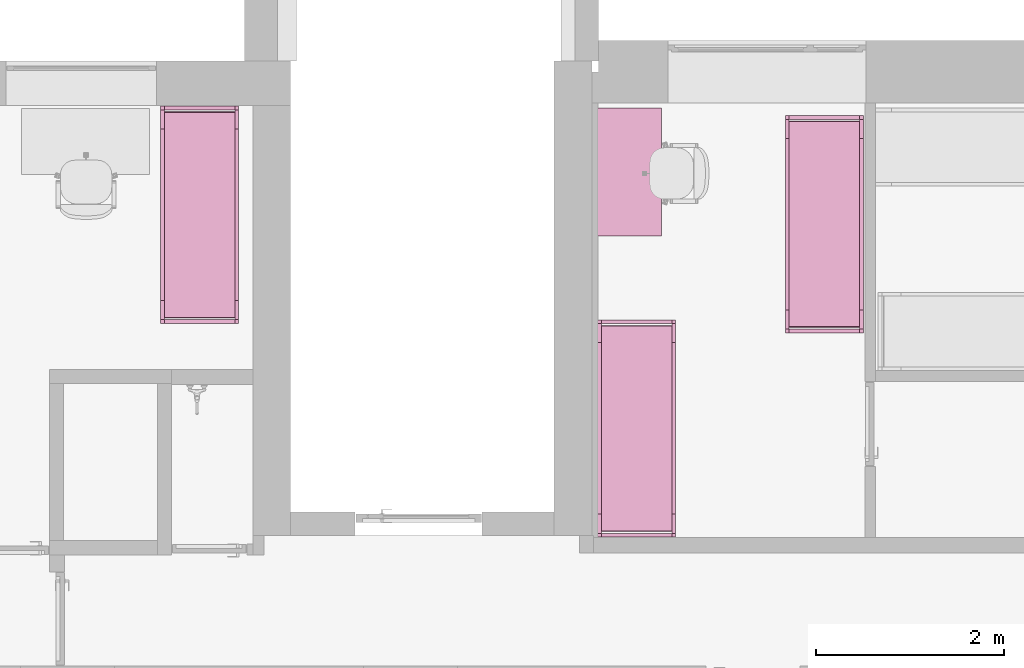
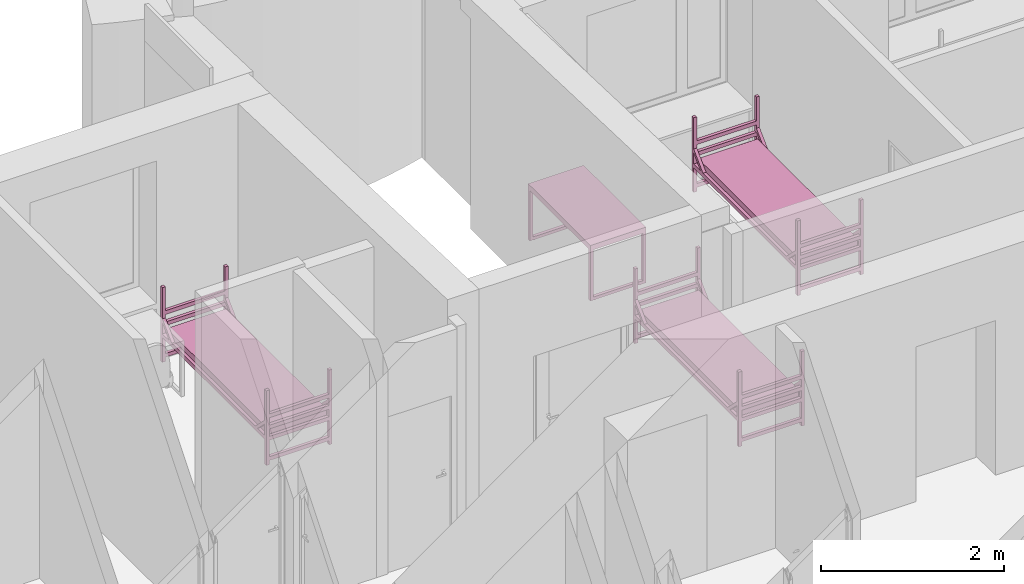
# One storey, part 26 of 46: 4 furnishings.
"""IFC2X3 building model written with IfcOpenShell, lengths in millimetres."""

from ifc_helpers import new_model, entity, si_unit, converted_unit, derived_unit, direction, frame, frame_2d, origin, place, context, subcontext, project, spatial, polyline, circle_curve, parameter, trimmed, segment, composite_curve, rectangle, outline, extrude, faceted_brep, source, transform, mapped, material, material_list, type_object, type_shapes, element, save


model = new_model("IFC2X3")

# Units and contexts
model_context = context("Model", 3, precision=0.01, world=origin(), true_north=direction((6.12303176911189e-17, 1.0)))
body_context = subcontext(model_context, "Body", "Model", "MODEL_VIEW")
ifc_project = project(units=[si_unit("LENGTHUNIT", "METRE", prefix="MILLI"), si_unit("AREAUNIT", "SQUARE_METRE"), si_unit("VOLUMEUNIT", "CUBIC_METRE"), converted_unit("PLANEANGLEUNIT", "DEGREE", entity("IfcRatioMeasure", 0.0174532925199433), si_unit("PLANEANGLEUNIT", "RADIAN"), dimensions=[0, 0, 0, 0, 0, 0, 0]), si_unit("MASSUNIT", "GRAM", prefix="KILO"), derived_unit("MASSDENSITYUNIT", [(si_unit("MASSUNIT", "GRAM", prefix="KILO"), 1), (si_unit("LENGTHUNIT", "METRE"), -3)]), si_unit("TIMEUNIT", "SECOND"), si_unit("FREQUENCYUNIT", "HERTZ"), si_unit("THERMODYNAMICTEMPERATUREUNIT", "DEGREE_CELSIUS"), derived_unit("THERMALTRANSMITTANCEUNIT", [(si_unit("MASSUNIT", "GRAM", prefix="KILO"), 1), (si_unit("THERMODYNAMICTEMPERATUREUNIT", "KELVIN"), -1), (si_unit("TIMEUNIT", "SECOND"), -3)]), derived_unit("VOLUMETRICFLOWRATEUNIT", [(si_unit("LENGTHUNIT", "METRE"), 3), (si_unit("TIMEUNIT", "SECOND"), -1)]), si_unit("ELECTRICCURRENTUNIT", "AMPERE"), si_unit("ELECTRICVOLTAGEUNIT", "VOLT"), si_unit("POWERUNIT", "WATT"), si_unit("FORCEUNIT", "NEWTON", prefix="KILO"), si_unit("ILLUMINANCEUNIT", "LUX"), si_unit("LUMINOUSFLUXUNIT", "LUMEN"), si_unit("LUMINOUSINTENSITYUNIT", "CANDELA"), derived_unit("USERDEFINED", [(si_unit("MASSUNIT", "GRAM", prefix="KILO"), -1), (si_unit("LENGTHUNIT", "METRE"), -2), (si_unit("TIMEUNIT", "SECOND"), 3), (si_unit("LUMINOUSFLUXUNIT", "LUMEN"), 1)]), derived_unit("LINEARVELOCITYUNIT", [(si_unit("LENGTHUNIT", "METRE"), 1), (si_unit("TIMEUNIT", "SECOND"), -1)]), si_unit("PRESSUREUNIT", "PASCAL"), derived_unit("USERDEFINED", [(si_unit("LENGTHUNIT", "METRE"), -2), (si_unit("MASSUNIT", "GRAM", prefix="KILO"), 1), (si_unit("TIMEUNIT", "SECOND"), -2)]), derived_unit("LINEARFORCEUNIT", [(si_unit("MASSUNIT", "GRAM", prefix="KILO"), 1), (si_unit("LENGTHUNIT", "METRE"), 1), (si_unit("TIMEUNIT", "SECOND"), -2), (si_unit("LENGTHUNIT", "METRE"), -1)]), derived_unit("PLANARFORCEUNIT", [(si_unit("MASSUNIT", "GRAM", prefix="KILO"), 1), (si_unit("LENGTHUNIT", "METRE"), 1), (si_unit("TIMEUNIT", "SECOND"), -2), (si_unit("LENGTHUNIT", "METRE"), -2)])], contexts=[model_context])

# Site, building, storey, space
site_placement = place(None, origin())
site = spatial("IfcSite", under=ifc_project, at=site_placement, Name="Default", CompositionType="ELEMENT")
building_placement = place(site_placement, origin())
building = spatial("IfcBuilding", under=site, at=building_placement, Name="SMA ARH", CompositionType="ELEMENT")
storey_placement = place(building_placement, frame((0.0, 0.0, 9910.0)))
storey = spatial("IfcBuildingStorey", under=building, at=storey_placement, Name="4 Korrus", CompositionType="ELEMENT", Elevation=9909.9999999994)
space_1_placement = place(storey_placement, origin())
space_1 = spatial("IfcSpace", under=storey, at=space_1_placement, Name="4-22", CompositionType="ELEMENT", InteriorOrExteriorSpace="INTERNAL")

# Furnishings
ifc_material_1 = material(Name="Madrats")
furniture_type_1 = type_object("IfcFurnitureType", Name="Kasarmu voodi ühekordne 2308x830:Kasarmu voodi ühekordne 2308x830", material=ifc_material_1)
shared_shape_1 = source(origin(), body_context, "Body", "SweptSolid", [
    extrude(rectangle(XDim=39.9999999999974, YDim=750.000000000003, at=frame_2d((-1.35003119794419e-13, -2.8421709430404e-14), x_axis=(1.0, 0.0))), frame((1.68638457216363, -1226.7969571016, 55.0), z_axis=(0.0, 0.0, 1.0), x_axis=(0.0, -1.0, 0.0)), (0.0, 0.0, 1.0), 49.9999999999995),
    extrude(rectangle(XDim=39.9999999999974, YDim=750.000000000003, at=frame_2d((-1.35003119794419e-13, -2.8421709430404e-14), x_axis=(1.0, 0.0))), frame((1.68638457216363, -1226.7969571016, 325.0), z_axis=(0.0, 0.0, 1.0), x_axis=(0.0, -1.0, 0.0)), (0.0, 0.0, 1.0), 49.9999999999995),
    extrude(rectangle(XDim=39.9999999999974, YDim=750.000000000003, at=frame_2d((-1.35003119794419e-13, -2.8421709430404e-14), x_axis=(1.0, 0.0))), frame((1.68638457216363, -1226.7969571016, 475.0), z_axis=(0.0, 0.0, 1.0), x_axis=(0.0, -1.0, 0.0)), (0.0, 0.0, 1.0), 49.9999999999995),
    extrude(rectangle(XDim=39.9999999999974, YDim=750.000000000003, at=frame_2d((-1.35003119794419e-13, -2.8421709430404e-14), x_axis=(1.0, 0.0))), frame((1.68638457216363, -1226.7969571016, 625.0), z_axis=(0.0, 0.0, 1.0), x_axis=(0.0, -1.0, 0.0)), (0.0, 0.0, 1.0), 50.0000000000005),
    extrude(rectangle(XDim=39.9999999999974, YDim=750.000000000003, at=frame_2d((1.35003119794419e-13, -2.8421709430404e-14), x_axis=(1.0, 0.0))), frame((1.68638457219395, 1041.2030428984, 55.0), z_axis=(0.0, 0.0, 1.0), x_axis=(0.0, -1.0, 0.0)), (0.0, 0.0, 1.0), 50.0000000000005),
    extrude(rectangle(XDim=39.9999999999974, YDim=750.000000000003, at=frame_2d((1.35003119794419e-13, -2.8421709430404e-14), x_axis=(1.0, 0.0))), frame((1.68638457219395, 1041.2030428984, 325.0), z_axis=(0.0, 0.0, 1.0), x_axis=(0.0, -1.0, 0.0)), (0.0, 0.0, 1.0), 50.0000000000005),
    extrude(rectangle(XDim=39.9999999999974, YDim=750.000000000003, at=frame_2d((1.35003119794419e-13, -2.8421709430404e-14), x_axis=(1.0, 0.0))), frame((1.68638457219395, 1041.2030428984, 475.0), z_axis=(0.0, 0.0, 1.0), x_axis=(0.0, -1.0, 0.0)), (0.0, 0.0, 1.0), 50.0000000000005),
    extrude(rectangle(XDim=39.9999999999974, YDim=750.000000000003, at=frame_2d((1.35003119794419e-13, -2.8421709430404e-14), x_axis=(1.0, 0.0))), frame((1.68638457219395, 1041.2030428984, 625.0), z_axis=(0.0, 0.0, 1.0), x_axis=(0.0, -1.0, 0.0)), (0.0, 0.0, 1.0), 49.9999999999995),
    extrude(outline(composite_curve([segment(trimmed(circle_curve(frame_2d((1085.0, -40.0), x_axis=(1.0, 0.0)), 10.0), [parameter(270.0)], [parameter(0.0)], True, "PARAMETER"), True, "CONTINUOUS"), segment(polyline([(1095.0, -40.0), (1095.0, 40.0)]), True, "CONTINUOUS"), segment(trimmed(circle_curve(frame_2d((1085.0, 40.0), x_axis=(1.0, 0.0)), 10.0), [parameter(0.0)], [parameter(90.0000000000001)], True, "PARAMETER"), True, "CONTINUOUS"), segment(polyline([(1085.0, 50.0), (-1085.0, 50.0)]), True, "CONTINUOUS"), segment(trimmed(circle_curve(frame_2d((-1085.0, 40.0), x_axis=(1.0, 0.0)), 10.0), [parameter(90.0000000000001)], [parameter(180.0)], True, "PARAMETER"), True, "CONTINUOUS"), segment(polyline([(-1095.0, 40.0), (-1095.0, -40.0)]), True, "CONTINUOUS"), segment(trimmed(circle_curve(frame_2d((-1085.0, -40.0), x_axis=(1.0, 0.0)), 10.0), [parameter(180.0)], [parameter(270.0)], True, "PARAMETER"), True, "CONTINUOUS"), segment(polyline([(-1085.0, -50.0), (1085.0, -50.0)]), True, "CONTINUOUS")], self_intersect=False)), frame((-373.313615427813, -92.7969571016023, 405.0), z_axis=(1.0, 0.0, 0.0), x_axis=(0.0, -1.0, 0.0)), (0.0, 0.0, 1.0), 750.000000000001),
    extrude(outline(polyline([(-1114.0, -100.0), (1114.0, -100.0), (1114.0, -50.0), (961.59199141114, -50.0), (1114.0, 100.0), (1114.0, 150.0), (910.789321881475, -50.0), (-910.789321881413, -50.0), (-1114.0, 150.0), (-1114.0, 100.0), (-961.591991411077, -50.0), (-1114.0, -50.0), (-1114.0, -100.0)])), frame((-413.313615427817, -92.7969571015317, 430.0), z_axis=(1.0, 0.0, 0.0), x_axis=(0.0, 1.0, 0.0)), (0.0, 0.0, 1.0), 39.9999999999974),
    extrude(outline(polyline([(-1114.0, -100.0), (1114.0, -100.0), (1114.0, -50.0), (961.591991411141, -50.0), (1114.0, 100.0), (1114.0, 150.0), (910.789321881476, -50.0), (-910.789321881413, -50.0), (-1114.0, 150.0), (-1114.0, 100.0), (-961.591991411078, -50.0), (-1114.0, -50.0), (-1114.0, -100.0)])), frame((376.686384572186, -92.796957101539, 430.0), z_axis=(1.0, 0.0, 0.0), x_axis=(0.0, 1.0, 0.0)), (0.0, 0.0, 1.0), 39.9999999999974),
    extrude(rectangle(XDim=39.9999999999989, YDim=39.9999999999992, at=frame_2d((-6.75015598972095e-14, 0.0), x_axis=(1.0, 0.0))), frame((396.686384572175, -1226.79695710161, 0.0), z_axis=(0.0, 0.0, 1.0), x_axis=(0.0, 1.0, 0.0)), (0.0, 0.0, 1.0), 995.0),
    extrude(rectangle(XDim=39.9999999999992, YDim=39.9999999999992, at=frame_2d((-1.35003119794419e-13, 0.0), x_axis=(1.0, 0.0))), frame((396.686384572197, 1041.20304289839, 0.0), z_axis=(0.0, 0.0, 1.0), x_axis=(0.0, 1.0, 0.0)), (0.0, 0.0, 1.0), 995.0),
    extrude(rectangle(XDim=40.0000000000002, YDim=39.9999999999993, at=frame_2d((-1.35003119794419e-13, 0.0), x_axis=(1.0, 0.0))), frame((-393.313615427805, 1041.2030428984, 0.0), z_axis=(0.0, 0.0, 1.0), x_axis=(0.0, 1.0, 0.0)), (0.0, 0.0, 1.0), 995.0),
    extrude(rectangle(XDim=39.9999999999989, YDim=39.9999999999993, at=frame_2d((-6.75015598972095e-14, 0.0), x_axis=(1.0, 0.0))), frame((-393.313615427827, -1226.7969571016, 0.0), z_axis=(0.0, 0.0, 1.0), x_axis=(0.0, 1.0, 0.0)), (0.0, 0.0, 1.0), 995.0),
])
type_shapes(furniture_type_1, [shared_shape_1])
for number, where, z_axis, x_axis, name in (
    (1, (14471.6863845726, 11120.0, 0.0), (0.0, 0.0, 1.0), (-1.0, 0.0, 0.0), "Kasarmu voodi ühekordne 2308x830:Kasarmu voodi ühekordne 2308x830"),
    (2, (12476.6863845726, 8950.20304289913, 0.0), (0.0, 0.0, 1.0), (-1.0, 0.0, 0.0), "Kasarmu voodi ühekordne 2308x830:Kasarmu voodi ühekordne 2308x830"),
):
    element("IfcFurnishingElement", number, at=place(space_1_placement, frame(where, z_axis=z_axis, x_axis=x_axis)), inside=space_1, type_object=furniture_type_1, material=ifc_material_1, Name=name, ObjectType="Kasarmu voodi ühekordne 2308x830:Kasarmu voodi ühekordne 2308x830", context=body_context, shape_type="MappedRepresentation", body=[
        mapped(shared_shape_1, transform((0.0, 0.0, 0.0), scale=1.0)),
    ])

# Space
space_2_placement = place(storey_placement, origin())
space_2 = spatial("IfcSpace", under=storey, at=space_2_placement, Name="4-20/2", CompositionType="ELEMENT", InteriorOrExteriorSpace="INTERNAL")

# Furnishings
furnishing_1_placement = place(space_2_placement, frame((7834.50000000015, 11220.0, 0.0), z_axis=(0.0, 0.0, 1.0), x_axis=(-1.0, 0.0, 0.0)))
element("IfcFurnishingElement", 3, at=furnishing_1_placement, inside=space_2, type_object=furniture_type_1, material=ifc_material_1, Name="Kasarmu voodi ühekordne 2308x830:Kasarmu voodi ühekordne 2308x830", ObjectType="Kasarmu voodi ühekordne 2308x830:Kasarmu voodi ühekordne 2308x830", context=body_context, shape_type="MappedRepresentation", body=[
    mapped(shared_shape_1, transform((0.0, 0.0, 0.0), scale=1.0)),
])
ifc_material_2 = material(Name="<Unnamed>")
ifc_material_list = material_list([ifc_material_2, ifc_material_2])
furniture_type_2 = type_object("IfcFurnitureType", Name="kirjutuslaud 1360x700mm:kirjutuslaud 1360x700mm", material=ifc_material_list)
shared_shape_2 = source(origin(), body_context, "Body", "Brep", [
    faceted_brep([(680.0, -350.0, 720.0), (680.0, 350.0, 720.0), (680.0, 350.0, 750.0), (680.0, -350.0, 750.0), (-680.0, -350.0, 720.0), (-680.0, -350.0, 750.0), (-680.0, 350.0, 750.0), (-680.0, 350.0, 720.0)], [[[0, 1, 2, 3]], [[4, 5, 6, 7]], [[1, 0, 4, 7]], [[2, 1, 7, 6]], [[3, 2, 6, 5]], [[0, 3, 5, 4]]]),
    faceted_brep([(-640.0, -310.0, 680.0), (-640.0, 310.0, 680.0), (-640.0, 310.0, 720.0), (-640.0, -310.0, 720.0), (-680.0, -350.0, 720.0), (-680.0, 350.0, 720.0), (-680.0, 350.0, 10.0), (-680.0, -350.0, 10.0), (-680.0, 310.0, 680.0), (-680.0, -310.0, 680.0), (-680.0, -310.0, 50.0), (-680.0, 310.0, 50.0), (-640.0, -350.0, 10.0), (-640.0, -350.0, 680.0), (640.0, -350.0, 680.0), (640.0, -350.0, 10.0), (680.0, -350.0, 10.0), (680.0, -350.0, 720.0), (-640.0, 350.0, 10.0), (680.0, 350.0, 720.0), (680.0, 350.0, 10.0), (640.0, 350.0, 10.0), (640.0, 350.0, 680.0), (-640.0, 350.0, 680.0), (640.0, 310.0, 720.0), (640.0, -310.0, 720.0), (-640.0, 310.0, 50.0), (-640.0, -310.0, 50.0), (640.0, -310.0, 680.0), (640.0, 310.0, 680.0), (680.0, 310.0, 680.0), (680.0, 310.0, 50.0), (680.0, -310.0, 50.0), (680.0, -310.0, 680.0), (640.0, -310.0, 50.0), (640.0, 310.0, 50.0)], [[[0, 1, 2, 3]], [[4, 5, 6, 7], [8, 9, 10, 11]], [[4, 7, 12, 13, 14, 15, 16, 17]], [[18, 12, 7, 6]], [[6, 5, 19, 20, 21, 22, 23, 18]], [[19, 5, 4, 17], [2, 24, 25, 3]], [[26, 1, 8, 11]], [[27, 26, 11, 10]], [[0, 27, 10, 9]], [[1, 0, 9, 8]], [[14, 13, 0, 28]], [[24, 2, 1, 29]], [[3, 25, 28, 0]], [[17, 16, 20, 19], [30, 31, 32, 33]], [[21, 15, 14, 28, 34, 35, 29, 22]], [[20, 16, 15, 21]], [[31, 30, 29, 35]], [[32, 31, 35, 34]], [[33, 32, 34, 28]], [[30, 33, 28, 29]], [[29, 28, 25, 24]], [[29, 1, 23, 22]], [[12, 18, 23, 1, 26, 27, 0, 13]]]),
    faceted_brep([(-663.729456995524, -270.466136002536, 0.0), (-659.847171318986, -269.955023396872, 0.0), (-655.964885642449, -270.466136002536, 0.0), (-652.347171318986, -271.964642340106, 0.0), (-649.240569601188, -274.348421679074, 0.0), (-646.85679026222, -277.455023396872, 0.0), (-645.35828392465, -281.072737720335, 0.0), (-644.847171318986, -284.955023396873, 0.0), (-645.35828392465, -288.83730907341, 0.0), (-646.85679026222, -292.455023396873, 0.0), (-649.240569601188, -295.561625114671, 0.0), (-652.347171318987, -297.945404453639, 0.0), (-655.964885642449, -299.443910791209, 0.0), (-659.847171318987, -299.955023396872, 0.0), (-663.729456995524, -299.443910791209, 0.0), (-667.347171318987, -297.945404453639, 0.0), (-670.453773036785, -295.561625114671, 0.0), (-672.837552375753, -292.455023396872, 0.0), (-674.336058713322, -288.83730907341, 0.0), (-674.847171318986, -284.955023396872, 0.0), (-674.336058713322, -281.072737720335, 0.0), (-672.837552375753, -277.455023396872, 0.0), (-670.453773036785, -274.348421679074, 0.0), (-667.347171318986, -271.964642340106, 0.0), (-655.964885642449, -299.443910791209, 10.0), (-652.347171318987, -297.945404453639, 10.0), (-649.240569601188, -295.561625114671, 10.0), (-646.85679026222, -292.455023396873, 10.0), (-645.35828392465, -288.83730907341, 10.0), (-644.847171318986, -284.955023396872, 10.0), (-645.35828392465, -281.072737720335, 10.0), (-646.85679026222, -277.455023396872, 10.0), (-649.240569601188, -274.348421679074, 10.0), (-652.347171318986, -271.964642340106, 10.0), (-655.964885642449, -270.466136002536, 10.0), (-659.847171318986, -269.955023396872, 10.0), (-663.729456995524, -270.466136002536, 10.0), (-667.347171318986, -271.964642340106, 10.0), (-670.453773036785, -274.348421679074, 10.0), (-672.837552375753, -277.455023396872, 10.0), (-674.336058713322, -281.072737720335, 10.0), (-674.847171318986, -284.955023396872, 10.0), (-674.336058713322, -288.83730907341, 10.0), (-672.837552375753, -292.455023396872, 10.0), (-670.453773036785, -295.561625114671, 10.0), (-667.347171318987, -297.945404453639, 10.0), (-663.729456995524, -299.443910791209, 10.0), (-659.847171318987, -299.955023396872, 10.0)], [[[0, 1, 2, 3, 4, 5, 6, 7, 8, 9, 10, 11, 12, 13, 14, 15, 16, 17, 18, 19, 20, 21, 22, 23]], [[24, 25, 26, 27, 28, 29, 30, 31, 32, 33, 34, 35, 36, 37, 38, 39, 40, 41, 42, 43, 44, 45, 46, 47]], [[18, 42, 41, 19]], [[17, 43, 42, 18]], [[45, 44, 16, 15]], [[17, 16, 44, 43]], [[46, 45, 15, 14]], [[47, 46, 14, 13]], [[12, 24, 47, 13]], [[11, 25, 24, 12]], [[27, 26, 10, 9]], [[11, 10, 26, 25]], [[28, 27, 9, 8]], [[29, 28, 8, 7]], [[6, 30, 29, 7]], [[5, 31, 30, 6]], [[33, 32, 4, 3]], [[5, 4, 32, 31]], [[34, 33, 3, 2]], [[35, 34, 2, 1]], [[0, 36, 35, 1]], [[23, 37, 36, 0]], [[39, 38, 22, 21]], [[23, 22, 38, 37]], [[40, 39, 21, 20]], [[41, 40, 20, 19]]]),
    faceted_brep([(-655.964885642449, 270.466136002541, 10.0), (-652.347171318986, 271.964642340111, 10.0), (-649.240569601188, 274.348421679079, 10.0), (-646.85679026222, 277.455023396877, 10.0), (-645.35828392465, 281.07273772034, 10.0), (-644.847171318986, 284.955023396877, 10.0), (-645.35828392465, 288.837309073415, 10.0), (-646.85679026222, 292.455023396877, 10.0), (-649.240569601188, 295.561625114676, 10.0), (-652.347171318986, 297.945404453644, 10.0), (-655.964885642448, 299.443910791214, 10.0), (-659.847171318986, 299.955023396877, 10.0), (-663.729456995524, 299.443910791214, 10.0), (-667.347171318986, 297.945404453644, 10.0), (-670.453773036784, 295.561625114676, 10.0), (-672.837552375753, 292.455023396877, 10.0), (-674.336058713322, 288.837309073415, 10.0), (-674.847171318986, 284.955023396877, 10.0), (-674.336058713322, 281.07273772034, 10.0), (-672.837552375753, 277.455023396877, 10.0), (-670.453773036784, 274.348421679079, 10.0), (-667.347171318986, 271.964642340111, 10.0), (-663.729456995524, 270.466136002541, 10.0), (-659.847171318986, 269.955023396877, 10.0), (-655.964885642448, 299.443910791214, 0.0), (-652.347171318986, 297.945404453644, 0.0), (-649.240569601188, 295.561625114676, 0.0), (-646.85679026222, 292.455023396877, 0.0), (-645.35828392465, 288.837309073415, 0.0), (-644.847171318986, 284.955023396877, 0.0), (-645.35828392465, 281.07273772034, 0.0), (-646.85679026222, 277.455023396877, 0.0), (-649.240569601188, 274.348421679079, 0.0), (-652.347171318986, 271.964642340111, 0.0), (-655.964885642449, 270.466136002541, 0.0), (-659.847171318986, 269.955023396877, 0.0), (-663.729456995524, 270.466136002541, 0.0), (-667.347171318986, 271.964642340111, 0.0), (-670.453773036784, 274.348421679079, 0.0), (-672.837552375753, 277.455023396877, 0.0), (-674.336058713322, 281.07273772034, 0.0), (-674.847171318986, 284.955023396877, 0.0), (-674.336058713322, 288.837309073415, 0.0), (-672.837552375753, 292.455023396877, 0.0), (-670.453773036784, 295.561625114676, 0.0), (-667.347171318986, 297.945404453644, 0.0), (-663.729456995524, 299.443910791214, 0.0), (-659.847171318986, 299.955023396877, 0.0)], [[[0, 1, 2, 3, 4, 5, 6, 7, 8, 9, 10, 11, 12, 13, 14, 15, 16, 17, 18, 19, 20, 21, 22, 23]], [[24, 25, 26, 27, 28, 29, 30, 31, 32, 33, 34, 35, 36, 37, 38, 39, 40, 41, 42, 43, 44, 45, 46, 47]], [[40, 18, 17, 41]], [[39, 19, 18, 40]], [[21, 20, 38, 37]], [[39, 38, 20, 19]], [[22, 21, 37, 36]], [[23, 22, 36, 35]], [[34, 0, 23, 35]], [[33, 1, 0, 34]], [[3, 2, 32, 31]], [[33, 32, 2, 1]], [[4, 3, 31, 30]], [[5, 4, 30, 29]], [[28, 6, 5, 29]], [[27, 7, 6, 28]], [[9, 8, 26, 25]], [[27, 26, 8, 7]], [[10, 9, 25, 24]], [[11, 10, 24, 47]], [[46, 12, 11, 47]], [[45, 13, 12, 46]], [[15, 14, 44, 43]], [[45, 44, 14, 13]], [[16, 15, 43, 42]], [[17, 16, 42, 41]]]),
    faceted_brep([(656.270543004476, -270.466136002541, 0.0), (660.152828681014, -269.955023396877, 0.0), (664.035114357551, -270.466136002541, 0.0), (667.652828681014, -271.96464234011, 0.0), (670.759430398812, -274.348421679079, 0.0), (673.14320973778, -277.455023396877, 0.0), (674.64171607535, -281.072737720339, 0.0), (675.152828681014, -284.955023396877, 0.0), (674.64171607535, -288.837309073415, 0.0), (673.14320973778, -292.455023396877, 0.0), (670.759430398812, -295.561625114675, 0.0), (667.652828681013, -297.945404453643, 0.0), (664.035114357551, -299.443910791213, 0.0), (660.152828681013, -299.955023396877, 0.0), (656.270543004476, -299.443910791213, 0.0), (652.652828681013, -297.945404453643, 0.0), (649.546226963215, -295.561625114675, 0.0), (647.162447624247, -292.455023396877, 0.0), (645.663941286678, -288.837309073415, 0.0), (645.152828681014, -284.955023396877, 0.0), (645.663941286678, -281.072737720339, 0.0), (647.162447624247, -277.455023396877, 0.0), (649.546226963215, -274.348421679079, 0.0), (652.652828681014, -271.96464234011, 0.0), (664.035114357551, -299.443910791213, 10.0), (667.652828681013, -297.945404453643, 10.0), (670.759430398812, -295.561625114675, 10.0), (673.14320973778, -292.455023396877, 10.0), (674.64171607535, -288.837309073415, 10.0), (675.152828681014, -284.955023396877, 10.0), (674.64171607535, -281.072737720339, 10.0), (673.14320973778, -277.455023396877, 10.0), (670.759430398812, -274.348421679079, 10.0), (667.652828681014, -271.96464234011, 10.0), (664.035114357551, -270.466136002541, 10.0), (660.152828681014, -269.955023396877, 10.0), (656.270543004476, -270.466136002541, 10.0), (652.652828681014, -271.96464234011, 10.0), (649.546226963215, -274.348421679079, 10.0), (647.162447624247, -277.455023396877, 10.0), (645.663941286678, -281.072737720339, 10.0), (645.152828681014, -284.955023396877, 10.0), (645.663941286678, -288.837309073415, 10.0), (647.162447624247, -292.455023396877, 10.0), (649.546226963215, -295.561625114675, 10.0), (652.652828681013, -297.945404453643, 10.0), (656.270543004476, -299.443910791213, 10.0), (660.152828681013, -299.955023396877, 10.0)], [[[0, 1, 2, 3, 4, 5, 6, 7, 8, 9, 10, 11, 12, 13, 14, 15, 16, 17, 18, 19, 20, 21, 22, 23]], [[24, 25, 26, 27, 28, 29, 30, 31, 32, 33, 34, 35, 36, 37, 38, 39, 40, 41, 42, 43, 44, 45, 46, 47]], [[18, 42, 41, 19]], [[17, 43, 42, 18]], [[45, 44, 16, 15]], [[17, 16, 44, 43]], [[46, 45, 15, 14]], [[47, 46, 14, 13]], [[12, 24, 47, 13]], [[11, 25, 24, 12]], [[27, 26, 10, 9]], [[11, 10, 26, 25]], [[28, 27, 9, 8]], [[29, 28, 8, 7]], [[6, 30, 29, 7]], [[5, 31, 30, 6]], [[33, 32, 4, 3]], [[5, 4, 32, 31]], [[34, 33, 3, 2]], [[35, 34, 2, 1]], [[0, 36, 35, 1]], [[23, 37, 36, 0]], [[39, 38, 22, 21]], [[23, 22, 38, 37]], [[40, 39, 21, 20]], [[41, 40, 20, 19]]]),
    faceted_brep([(664.035114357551, 270.466136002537, 10.0), (667.652828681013, 271.964642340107, 10.0), (670.759430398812, 274.348421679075, 10.0), (673.14320973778, 277.455023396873, 10.0), (674.64171607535, 281.072737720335, 10.0), (675.152828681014, 284.955023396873, 10.0), (674.64171607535, 288.837309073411, 10.0), (673.14320973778, 292.455023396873, 10.0), (670.759430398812, 295.561625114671, 10.0), (667.652828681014, 297.94540445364, 10.0), (664.035114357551, 299.443910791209, 10.0), (660.152828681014, 299.955023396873, 10.0), (656.270543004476, 299.443910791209, 10.0), (652.652828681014, 297.94540445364, 10.0), (649.546226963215, 295.561625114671, 10.0), (647.162447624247, 292.455023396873, 10.0), (645.663941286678, 288.837309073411, 10.0), (645.152828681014, 284.955023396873, 10.0), (645.663941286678, 281.072737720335, 10.0), (647.162447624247, 277.455023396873, 10.0), (649.546226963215, 274.348421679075, 10.0), (652.652828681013, 271.964642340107, 10.0), (656.270543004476, 270.466136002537, 10.0), (660.152828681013, 269.955023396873, 10.0), (664.035114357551, 299.443910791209, 0.0), (667.652828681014, 297.94540445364, 0.0), (670.759430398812, 295.561625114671, 0.0), (673.14320973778, 292.455023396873, 0.0), (674.64171607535, 288.837309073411, 0.0), (675.152828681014, 284.955023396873, 0.0), (674.64171607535, 281.072737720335, 0.0), (673.14320973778, 277.455023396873, 0.0), (670.759430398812, 274.348421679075, 0.0), (667.652828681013, 271.964642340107, 0.0), (664.035114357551, 270.466136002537, 0.0), (660.152828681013, 269.955023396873, 0.0), (656.270543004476, 270.466136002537, 0.0), (652.652828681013, 271.964642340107, 0.0), (649.546226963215, 274.348421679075, 0.0), (647.162447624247, 277.455023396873, 0.0), (645.663941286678, 281.072737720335, 0.0), (645.152828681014, 284.955023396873, 0.0), (645.663941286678, 288.837309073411, 0.0), (647.162447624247, 292.455023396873, 0.0), (649.546226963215, 295.561625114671, 0.0), (652.652828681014, 297.94540445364, 0.0), (656.270543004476, 299.443910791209, 0.0), (660.152828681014, 299.955023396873, 0.0)], [[[0, 1, 2, 3, 4, 5, 6, 7, 8, 9, 10, 11, 12, 13, 14, 15, 16, 17, 18, 19, 20, 21, 22, 23]], [[24, 25, 26, 27, 28, 29, 30, 31, 32, 33, 34, 35, 36, 37, 38, 39, 40, 41, 42, 43, 44, 45, 46, 47]], [[40, 18, 17, 41]], [[39, 19, 18, 40]], [[21, 20, 38, 37]], [[39, 38, 20, 19]], [[22, 21, 37, 36]], [[23, 22, 36, 35]], [[34, 0, 23, 35]], [[33, 1, 0, 34]], [[3, 2, 32, 31]], [[33, 32, 2, 1]], [[4, 3, 31, 30]], [[5, 4, 30, 29]], [[28, 6, 5, 29]], [[27, 7, 6, 28]], [[9, 8, 26, 25]], [[27, 26, 8, 7]], [[10, 9, 25, 24]], [[11, 10, 24, 47]], [[46, 12, 11, 47]], [[45, 13, 12, 46]], [[15, 14, 44, 43]], [[45, 44, 14, 13]], [[16, 15, 43, 42]], [[17, 16, 42, 41]]]),
])
type_shapes(furniture_type_2, [shared_shape_2])
furnishing_2_placement = place(space_1_placement, frame((12390.0, 11770.0, 0.0), z_axis=(0.0, 0.0, 1.0), x_axis=(0.0, 1.0, 0.0)))
element("IfcFurnishingElement", 4, at=furnishing_2_placement, inside=space_1, type_object=furniture_type_2, Name="kirjutuslaud 1360x700mm:kirjutuslaud 1360x700mm", ObjectType="kirjutuslaud 1360x700mm:kirjutuslaud 1360x700mm", context=body_context, shape_type="MappedRepresentation", body=[
    mapped(shared_shape_2, transform((0.0, 0.0, 0.0), scale=1.0)),
])

save(model, "model.ifc")
